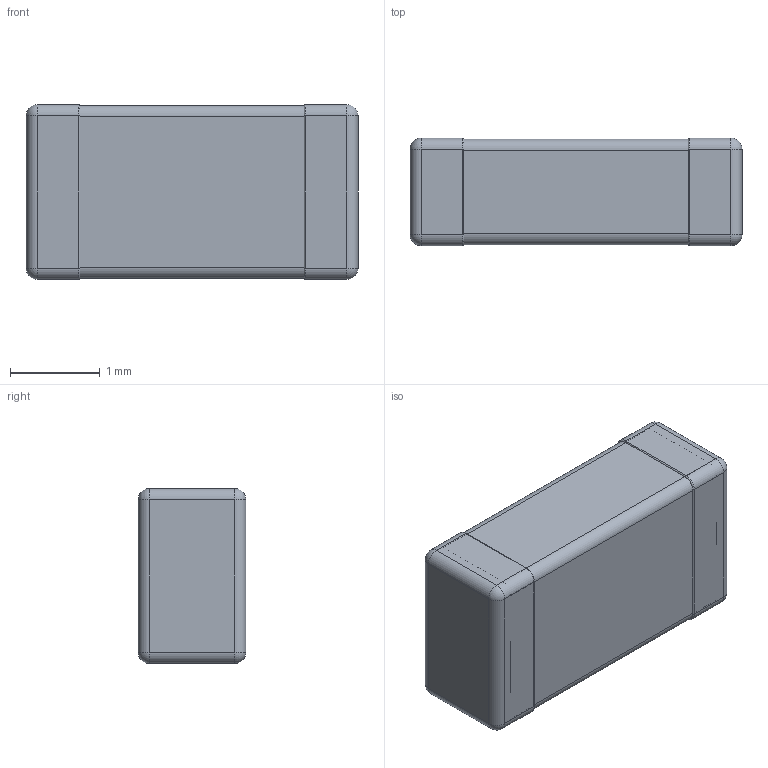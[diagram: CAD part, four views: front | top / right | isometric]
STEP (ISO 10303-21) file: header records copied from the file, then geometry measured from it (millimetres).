
FILE_DESCRIPTION(('STEP AP242'),'1');
FILE_NAME('c1206x300jdgactu.stp','2020-12-01T17:41:12',('TraceParts'),('TraceParts S.A.'),'Spatial InterOp 3D',' ',' ');
FILE_SCHEMA(('AP242_MANAGED_MODEL_BASED_3D_ENGINEERING_MIM_LF {1 0 10303 442 1 1 4}'));
Length unit declared in the file: millimetre
Products named in the file (1): c1206x300jdgactu_1
Bounding box: 3.7 x 1.2 x 1.95 mm (x, y, z)
Volume: 8.4 mm3; surface area: 46.9 mm2
Topology: 6 solids, 6 shells, 175 faces, 425 edges, 238 vertices
Faces by surface type: plane 91, cylinder 52, sphere 24, torus 8
Entity records: 6340 total; most frequent: CARTESIAN_POINT 916, DIRECTION 843, ORIENTED_EDGE 802, EDGE_CURVE 401, AXIS2_PLACEMENT_3D 293, LINE 257, VECTOR 257, VERTEX_POINT 238
